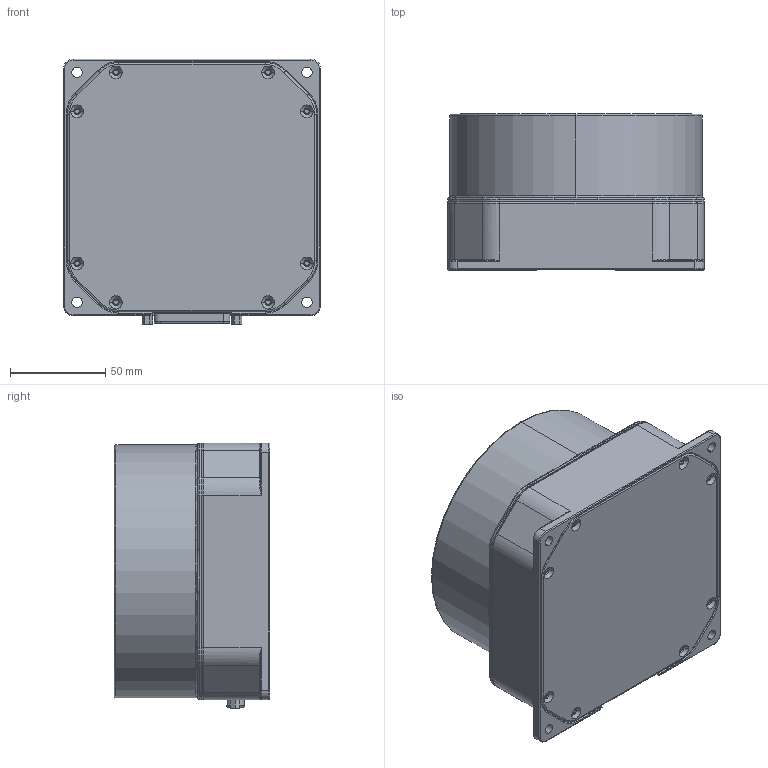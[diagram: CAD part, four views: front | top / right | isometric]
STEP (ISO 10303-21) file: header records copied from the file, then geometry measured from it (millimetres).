
FILE_DESCRIPTION (( 'STEP AP214' ), '1' );
FILE_NAME ('3D-01-00754_RevD_defeature.STEP', '2022-10-19T09:41:52', ( '' ), ( '' ), 'SwSTEP 2.0', 'SolidWorks 2021', '' );
FILE_SCHEMA (( 'AUTOMOTIVE_DESIGN' ));
Length unit declared in the file: millimetre
Products named in the file (1): 3D-01-00754_RevD_defeature
Bounding box: 135 x 82 x 139.89 mm (x, y, z)
Volume: 180341.3 mm3; surface area: 191801.8 mm2
Topology: 4 solids, 4 shells, 3479 faces, 9650 edges, 6030 vertices
Faces by surface type: plane 1234, cylinder 1010, bspline 570, cone 332, torus 283, sphere 50
Entity records: 151553 total; most frequent: CARTESIAN_POINT 64749, ORIENTED_EDGE 19034, DIRECTION 17008, EDGE_CURVE 9517, AXIS2_PLACEMENT_3D 6060, VERTEX_POINT 6005, LINE 4888, VECTOR 4888
